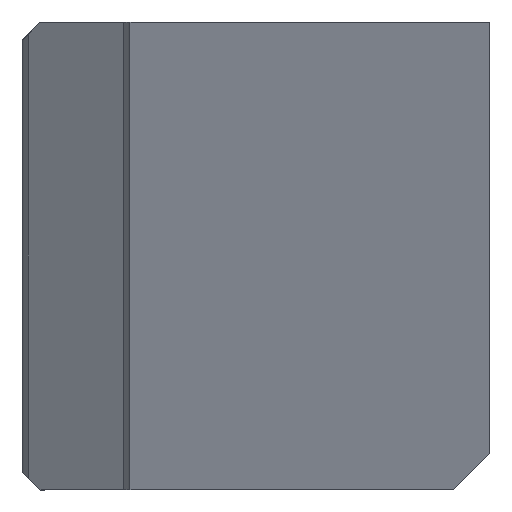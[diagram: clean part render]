
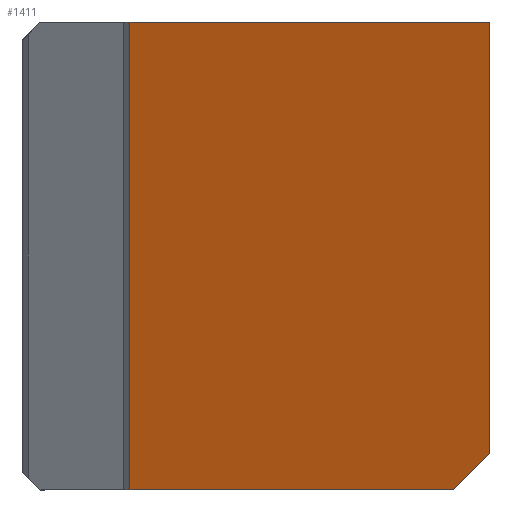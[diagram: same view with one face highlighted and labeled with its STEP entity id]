
A CAD part, left-side view. The second image highlights one B-rep face of the part: STEP entity #1411.
In plain terms, the highlighted planar face has unit normal (-0.943, 0, -0.334).
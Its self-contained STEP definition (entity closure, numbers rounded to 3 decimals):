
#1090 = CARTESIAN_POINT ( 'NONE',  ( 0., 0., 0. ) ) ;
#1137 = DIRECTION ( 'NONE',  ( -0.942, 0., -0.334 ) ) ;
#1411 = ADVANCED_FACE ( 'NONE', ( #27297 ), #1674, .T. ) ;
#1505 = VECTOR ( 'NONE', #20853, 1000. ) ;
#1552 = DIRECTION ( 'NONE',  ( 0., 1., 0. ) ) ;
#1674 = PLANE ( 'NONE',  #14878 ) ;
#1907 = CARTESIAN_POINT ( 'NONE',  ( 0., 39., 0. ) ) ;
#2089 = ORIENTED_EDGE ( 'NONE', *, *, #23987, .F. ) ;
#3272 = VERTEX_POINT ( 'NONE', #1090 ) ;
#3337 = ORIENTED_EDGE ( 'NONE', *, *, #18328, .F. ) ;
#3678 = LINE ( 'NONE', #6058, #24444 ) ;
#4021 = DIRECTION ( 'NONE',  ( 0., -1., 0. ) ) ;
#5658 = VERTEX_POINT ( 'NONE', #11319 ) ;
#5730 = LINE ( 'NONE', #1907, #15508 ) ;
#6058 = CARTESIAN_POINT ( 'NONE',  ( 6.006, -19.065, -16.935 ) ) ;
#7379 = EDGE_CURVE ( 'NONE', #5658, #13643, #3678, .T. ) ;
#7433 = EDGE_CURVE ( 'NONE', #3272, #13643, #25348, .T. ) ;
#8728 = ORIENTED_EDGE ( 'NONE', *, *, #12182, .F. ) ;
#10562 = CARTESIAN_POINT ( 'NONE',  ( 13.832, 0., -39. ) ) ;
#10953 = CARTESIAN_POINT ( 'NONE',  ( 0., 30., 0. ) ) ;
#11319 = CARTESIAN_POINT ( 'NONE',  ( 13.832, 3., -39. ) ) ;
#11847 = CARTESIAN_POINT ( 'NONE',  ( 0., 30., 0. ) ) ;
#12182 = EDGE_CURVE ( 'NONE', #15157, #19660, #20591, .T. ) ;
#12524 = CARTESIAN_POINT ( 'NONE',  ( 13.832, 39., -39. ) ) ;
#13643 = VERTEX_POINT ( 'NONE', #21203 ) ;
#13936 = ORIENTED_EDGE ( 'NONE', *, *, #7433, .F. ) ;
#14631 = CARTESIAN_POINT ( 'NONE',  ( 0., 0., 0. ) ) ;
#14878 = AXIS2_PLACEMENT_3D ( 'NONE', #14631, #1137, #18319 ) ;
#15157 = VERTEX_POINT ( 'NONE', #27500 ) ;
#15508 = VECTOR ( 'NONE', #4021, 1000. ) ;
#15847 = EDGE_LOOP ( 'NONE', ( #3337, #21934, #13936, #2089, #8728 ) ) ;
#18264 = VECTOR ( 'NONE', #1552, 1000. ) ;
#18319 = DIRECTION ( 'NONE',  ( -0.334, 0., 0.942 ) ) ;
#18328 = EDGE_CURVE ( 'NONE', #5658, #15157, #27169, .T. ) ;
#19660 = VERTEX_POINT ( 'NONE', #10953 ) ;
#20442 = DIRECTION ( 'NONE',  ( -0.334, 0., 0.942 ) ) ;
#20591 = LINE ( 'NONE', #11847, #24722 ) ;
#20853 = DIRECTION ( 'NONE',  ( 0.334, 0., -0.942 ) ) ;
#21203 = CARTESIAN_POINT ( 'NONE',  ( 12.768, 0., -36. ) ) ;
#21934 = ORIENTED_EDGE ( 'NONE', *, *, #7379, .T. ) ;
#23987 = EDGE_CURVE ( 'NONE', #19660, #3272, #5730, .T. ) ;
#24444 = VECTOR ( 'NONE', #27746, 1000. ) ;
#24722 = VECTOR ( 'NONE', #20442, 1000. ) ;
#25348 = LINE ( 'NONE', #10562, #1505 ) ;
#27169 = LINE ( 'NONE', #12524, #18264 ) ;
#27297 = FACE_OUTER_BOUND ( 'NONE', #15847, .T. ) ;
#27500 = CARTESIAN_POINT ( 'NONE',  ( 13.832, 30., -39. ) ) ;
#27746 = DIRECTION ( 'NONE',  ( -0.243, -0.686, 0.686 ) ) ;
